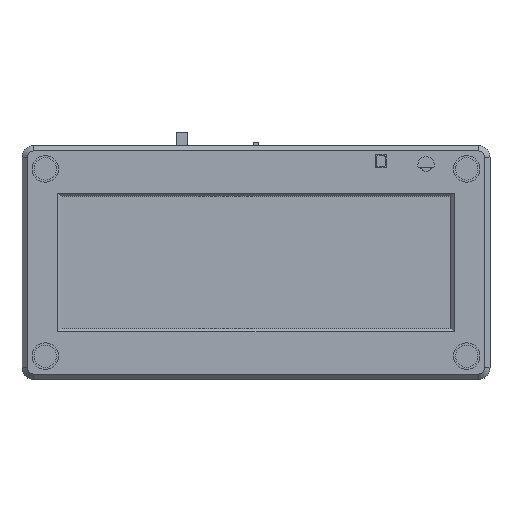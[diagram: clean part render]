
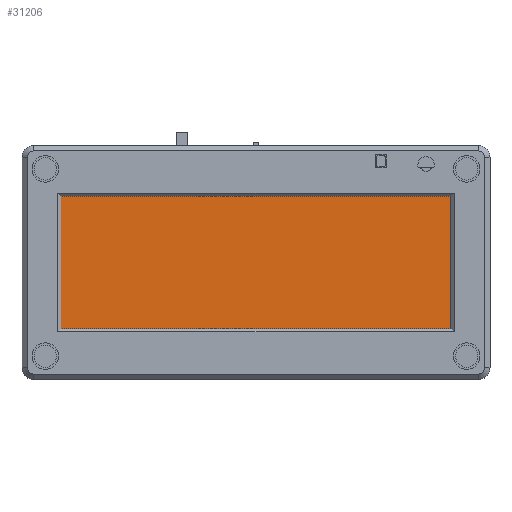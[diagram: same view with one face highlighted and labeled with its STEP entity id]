
A CAD part, top view. The second image highlights one B-rep face of the part: STEP entity #31206.
In plain terms, the highlighted planar face has unit normal (0, 0, 1).
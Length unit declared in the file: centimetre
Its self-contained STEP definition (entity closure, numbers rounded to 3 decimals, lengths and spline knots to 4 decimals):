
#895=FACE_OUTER_BOUND('',#2623,.T.);
#2623=EDGE_LOOP('',(#21527,#21528,#21529,#21530,#21531));
#4743=LINE('',#44208,#9070);
#4747=LINE('',#44216,#9074);
#4750=LINE('',#44222,#9077);
#4753=LINE('',#44228,#9080);
#4756=LINE('',#44233,#9083);
#9070=VECTOR('',#35927,1.);
#9074=VECTOR('',#35933,1.);
#9077=VECTOR('',#35938,1.);
#9080=VECTOR('',#35943,1.);
#9083=VECTOR('',#35948,1.);
#13242=VERTEX_POINT('',#44206);
#13243=VERTEX_POINT('',#44207);
#13246=VERTEX_POINT('',#44215);
#13248=VERTEX_POINT('',#44221);
#13250=VERTEX_POINT('',#44227);
#16433=EDGE_CURVE('',#13242,#13243,#4743,.T.);
#16437=EDGE_CURVE('',#13243,#13246,#4747,.T.);
#16440=EDGE_CURVE('',#13246,#13248,#4750,.T.);
#16443=EDGE_CURVE('',#13248,#13250,#4753,.T.);
#16446=EDGE_CURVE('',#13250,#13242,#4756,.T.);
#21527=ORIENTED_EDGE('',*,*,#16446,.T.);
#21528=ORIENTED_EDGE('',*,*,#16433,.T.);
#21529=ORIENTED_EDGE('',*,*,#16437,.T.);
#21530=ORIENTED_EDGE('',*,*,#16440,.T.);
#21531=ORIENTED_EDGE('',*,*,#16443,.T.);
#29583=PLANE('',#33232);
#31206=ADVANCED_FACE('',(#895),#29583,.T.);
#33232=AXIS2_PLACEMENT_3D('',#44235,#35950,#35951);
#35927=DIRECTION('',(1.,0.,0.));
#35933=DIRECTION('',(0.,1.,0.));
#35938=DIRECTION('',(-1.,0.,0.));
#35943=DIRECTION('',(-0.707,-0.707,0.));
#35948=DIRECTION('',(0.,-1.,0.));
#35950=DIRECTION('center_axis',(0.,0.,1.));
#35951=DIRECTION('ref_axis',(1.,0.,0.));
#44206=CARTESIAN_POINT('',(0.8,1.1,-0.16));
#44207=CARTESIAN_POINT('',(11.2,1.1,-0.16));
#44208=CARTESIAN_POINT('',(0.8,1.1,-0.16));
#44215=CARTESIAN_POINT('',(11.2,4.9,-0.16));
#44216=CARTESIAN_POINT('',(11.2,1.1,-0.16));
#44221=CARTESIAN_POINT('',(1.1,4.9,-0.16));
#44222=CARTESIAN_POINT('',(11.2,4.9,-0.16));
#44227=CARTESIAN_POINT('',(0.8,4.6,-0.16));
#44228=CARTESIAN_POINT('',(1.1,4.9,-0.16));
#44233=CARTESIAN_POINT('',(0.8,4.6,-0.16));
#44235=CARTESIAN_POINT('Origin',(6.,3.,-0.16));
